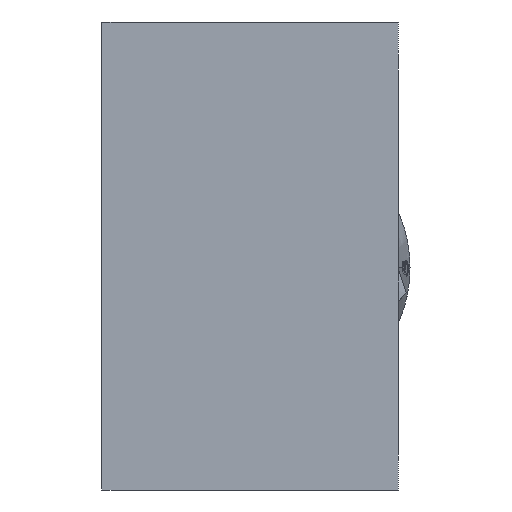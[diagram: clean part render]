
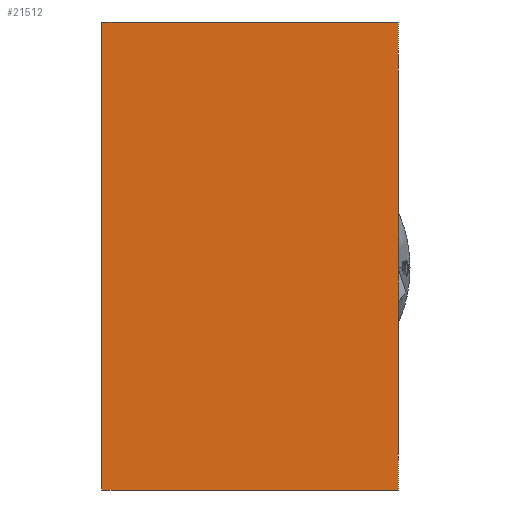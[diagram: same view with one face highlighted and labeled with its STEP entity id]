
A CAD part, left-side view. The second image highlights one B-rep face of the part: STEP entity #21512.
In plain terms, the highlighted planar face has unit normal (-1, 0, 0).
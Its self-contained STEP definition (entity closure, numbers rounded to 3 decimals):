
#110 = CARTESIAN_POINT ( 'NONE',  ( 0., -19., -30. ) ) ;
#689 = DIRECTION ( 'NONE',  ( 0., -1., 0. ) ) ;
#2034 = LINE ( 'NONE', #23046, #8517 ) ;
#4388 = ORIENTED_EDGE ( 'NONE', *, *, #47387, .F. ) ;
#4674 = DIRECTION ( 'NONE',  ( 0., 0., -1. ) ) ;
#6970 = LINE ( 'NONE', #18031, #55177 ) ;
#7086 = LINE ( 'NONE', #110, #7733 ) ;
#7733 = VECTOR ( 'NONE', #52969, 1000. ) ;
#8517 = VECTOR ( 'NONE', #689, 1000. ) ;
#9650 = ORIENTED_EDGE ( 'NONE', *, *, #47394, .F. ) ;
#12925 = CARTESIAN_POINT ( 'NONE',  ( 0., -19., -30. ) ) ;
#15212 = DIRECTION ( 'NONE',  ( -1., 0., 0. ) ) ;
#18031 = CARTESIAN_POINT ( 'NONE',  ( 0., -19., 30. ) ) ;
#18200 = ORIENTED_EDGE ( 'NONE', *, *, #47473, .F. ) ;
#20955 = VERTEX_POINT ( 'NONE', #12925 ) ;
#21512 = ADVANCED_FACE ( 'NONE', ( #42122 ), #49918, .T. ) ;
#22056 = DIRECTION ( 'NONE',  ( 0., 0., 1. ) ) ;
#23046 = CARTESIAN_POINT ( 'NONE',  ( 0., -19., 30. ) ) ;
#24313 = CARTESIAN_POINT ( 'NONE',  ( 0., 19., -30. ) ) ;
#25518 = VERTEX_POINT ( 'NONE', #24313 ) ;
#27459 = EDGE_LOOP ( 'NONE', ( #4388, #9650, #18200, #47031 ) ) ;
#28089 = AXIS2_PLACEMENT_3D ( 'NONE', #41309, #15212, #45777 ) ;
#36642 = CARTESIAN_POINT ( 'NONE',  ( 0., -19., 30. ) ) ;
#41309 = CARTESIAN_POINT ( 'NONE',  ( 0., 19., -30. ) ) ;
#42122 = FACE_OUTER_BOUND ( 'NONE', #27459, .T. ) ;
#45777 = DIRECTION ( 'NONE',  ( 0., 0., 1. ) ) ;
#47031 = ORIENTED_EDGE ( 'NONE', *, *, #47721, .F. ) ;
#47387 = EDGE_CURVE ( 'NONE', #20955, #25518, #7086, .T. ) ;
#47394 = EDGE_CURVE ( 'NONE', #53711, #20955, #6970, .T. ) ;
#47473 = EDGE_CURVE ( 'NONE', #54412, #53711, #2034, .T. ) ;
#47721 = EDGE_CURVE ( 'NONE', #25518, #54412, #50390, .T. ) ;
#48095 = CARTESIAN_POINT ( 'NONE',  ( 0., 19., 30. ) ) ;
#49918 = PLANE ( 'NONE',  #28089 ) ;
#50390 = LINE ( 'NONE', #48095, #50559 ) ;
#50453 = CARTESIAN_POINT ( 'NONE',  ( 0., 19., 30. ) ) ;
#50559 = VECTOR ( 'NONE', #22056, 1000. ) ;
#52969 = DIRECTION ( 'NONE',  ( 0., 1., 0. ) ) ;
#53711 = VERTEX_POINT ( 'NONE', #36642 ) ;
#54412 = VERTEX_POINT ( 'NONE', #50453 ) ;
#55177 = VECTOR ( 'NONE', #4674, 1000. ) ;
